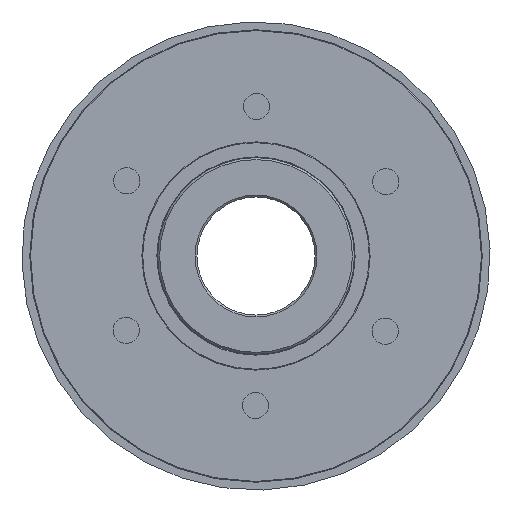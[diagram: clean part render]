
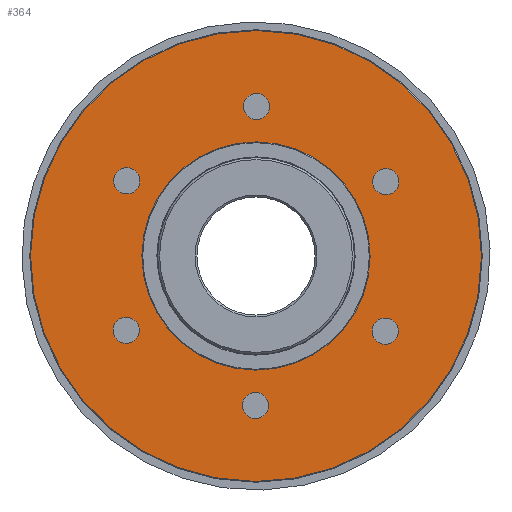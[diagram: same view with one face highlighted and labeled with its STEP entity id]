
A CAD part, left-side view. The second image highlights one B-rep face of the part: STEP entity #364.
In plain terms, the highlighted planar face has unit normal (-1, 0, 0).
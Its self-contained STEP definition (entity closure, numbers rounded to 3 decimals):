
#364 = ADVANCED_FACE( '', ( #735, #736, #737, #738, #739, #740, #741, #742 ), #743, .T. );
#735 = FACE_BOUND( '', #1207, .T. );
#736 = FACE_BOUND( '', #1208, .T. );
#737 = FACE_BOUND( '', #1209, .T. );
#738 = FACE_BOUND( '', #1210, .T. );
#739 = FACE_BOUND( '', #1211, .T. );
#740 = FACE_BOUND( '', #1212, .T. );
#741 = FACE_OUTER_BOUND( '', #1213, .T. );
#742 = FACE_BOUND( '', #1214, .T. );
#743 = PLANE( '', #1215 );
#1207 = EDGE_LOOP( '', ( #1711 ) );
#1208 = EDGE_LOOP( '', ( #1712 ) );
#1209 = EDGE_LOOP( '', ( #1713 ) );
#1210 = EDGE_LOOP( '', ( #1714 ) );
#1211 = EDGE_LOOP( '', ( #1715 ) );
#1212 = EDGE_LOOP( '', ( #1716 ) );
#1213 = EDGE_LOOP( '', ( #1717 ) );
#1214 = EDGE_LOOP( '', ( #1718 ) );
#1215 = AXIS2_PLACEMENT_3D( '', #1719, #1720, #1721 );
#1711 = ORIENTED_EDGE( '', *, *, #2332, .T. );
#1712 = ORIENTED_EDGE( '', *, *, #2333, .T. );
#1713 = ORIENTED_EDGE( '', *, *, #2334, .T. );
#1714 = ORIENTED_EDGE( '', *, *, #2335, .T. );
#1715 = ORIENTED_EDGE( '', *, *, #2336, .T. );
#1716 = ORIENTED_EDGE( '', *, *, #2280, .T. );
#1717 = ORIENTED_EDGE( '', *, *, #2337, .T. );
#1718 = ORIENTED_EDGE( '', *, *, #2338, .F. );
#1719 = CARTESIAN_POINT( '', ( 27.5, 0., 29. ) );
#1720 = DIRECTION( '', ( -1., 0., 0. ) );
#1721 = DIRECTION( '', ( 0., 0., 1. ) );
#2280 = EDGE_CURVE( '', #2561, #2561, #2562, .T. );
#2332 = EDGE_CURVE( '', #2643, #2643, #2644, .T. );
#2333 = EDGE_CURVE( '', #2645, #2645, #2646, .T. );
#2334 = EDGE_CURVE( '', #2647, #2647, #2648, .T. );
#2335 = EDGE_CURVE( '', #2649, #2649, #2650, .T. );
#2336 = EDGE_CURVE( '', #2651, #2651, #2652, .T. );
#2337 = EDGE_CURVE( '', #2653, #2653, #2654, .T. );
#2338 = EDGE_CURVE( '', #2655, #2655, #2656, .T. );
#2561 = VERTEX_POINT( '', #3231 );
#2562 = CIRCLE( '', #3232, 3.324 );
#2643 = VERTEX_POINT( '', #3319 );
#2644 = CIRCLE( '', #3320, 3.324 );
#2645 = VERTEX_POINT( '', #3321 );
#2646 = CIRCLE( '', #3322, 3.324 );
#2647 = VERTEX_POINT( '', #3323 );
#2648 = CIRCLE( '', #3324, 3.324 );
#2649 = VERTEX_POINT( '', #3325 );
#2650 = CIRCLE( '', #3326, 3.324 );
#2651 = VERTEX_POINT( '', #3327 );
#2652 = CIRCLE( '', #3328, 3.324 );
#2653 = VERTEX_POINT( '', #3329 );
#2654 = CIRCLE( '', #3330, 57.3 );
#2655 = VERTEX_POINT( '', #3331 );
#2656 = CIRCLE( '', #3332, 29. );
#3231 = CARTESIAN_POINT( '', ( 27.5, 0., 41.324 ) );
#3232 = AXIS2_PLACEMENT_3D( '', #3841, #3842, #3843 );
#3319 = CARTESIAN_POINT( '', ( 27.5, 35.787, 20.662 ) );
#3320 = AXIS2_PLACEMENT_3D( '', #3925, #3926, #3927 );
#3321 = CARTESIAN_POINT( '', ( 27.5, 35.787, -20.662 ) );
#3322 = AXIS2_PLACEMENT_3D( '', #3928, #3929, #3930 );
#3323 = CARTESIAN_POINT( '', ( 27.5, 0., -41.324 ) );
#3324 = AXIS2_PLACEMENT_3D( '', #3931, #3932, #3933 );
#3325 = CARTESIAN_POINT( '', ( 27.5, -35.787, -20.662 ) );
#3326 = AXIS2_PLACEMENT_3D( '', #3934, #3935, #3936 );
#3327 = CARTESIAN_POINT( '', ( 27.5, -35.787, 20.662 ) );
#3328 = AXIS2_PLACEMENT_3D( '', #3937, #3938, #3939 );
#3329 = CARTESIAN_POINT( '', ( 27.5, 0., 57.3 ) );
#3330 = AXIS2_PLACEMENT_3D( '', #3940, #3941, #3942 );
#3331 = CARTESIAN_POINT( '', ( 27.5, 0., 29. ) );
#3332 = AXIS2_PLACEMENT_3D( '', #3943, #3944, #3945 );
#3841 = CARTESIAN_POINT( '', ( 27.5, 0., 38. ) );
#3842 = DIRECTION( '', ( 1., 0., 0. ) );
#3843 = DIRECTION( '', ( 0., 0., 1. ) );
#3925 = CARTESIAN_POINT( '', ( 27.5, 32.909, 19. ) );
#3926 = DIRECTION( '', ( 1., 0., 0. ) );
#3927 = DIRECTION( '', ( 0., 0.866, 0.5 ) );
#3928 = CARTESIAN_POINT( '', ( 27.5, 32.909, -19. ) );
#3929 = DIRECTION( '', ( 1., 0., 0. ) );
#3930 = DIRECTION( '', ( 0., 0.866, -0.5 ) );
#3931 = CARTESIAN_POINT( '', ( 27.5, 0., -38. ) );
#3932 = DIRECTION( '', ( 1., 0., 0. ) );
#3933 = DIRECTION( '', ( 0., 0., -1. ) );
#3934 = CARTESIAN_POINT( '', ( 27.5, -32.909, -19. ) );
#3935 = DIRECTION( '', ( 1., 0., 0. ) );
#3936 = DIRECTION( '', ( 0., -0.866, -0.5 ) );
#3937 = CARTESIAN_POINT( '', ( 27.5, -32.909, 19. ) );
#3938 = DIRECTION( '', ( 1., 0., 0. ) );
#3939 = DIRECTION( '', ( 0., -0.866, 0.5 ) );
#3940 = CARTESIAN_POINT( '', ( 27.5, 0., 0. ) );
#3941 = DIRECTION( '', ( -1., 0., 0. ) );
#3942 = DIRECTION( '', ( 0., 0., 1. ) );
#3943 = CARTESIAN_POINT( '', ( 27.5, 0., 0. ) );
#3944 = DIRECTION( '', ( -1., 0., 0. ) );
#3945 = DIRECTION( '', ( 0., 0., 1. ) );
